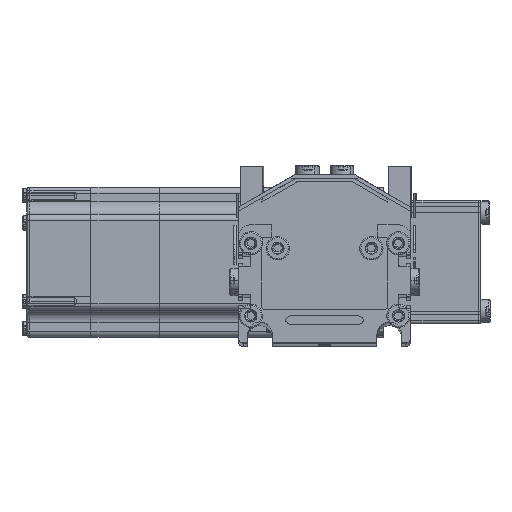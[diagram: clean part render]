
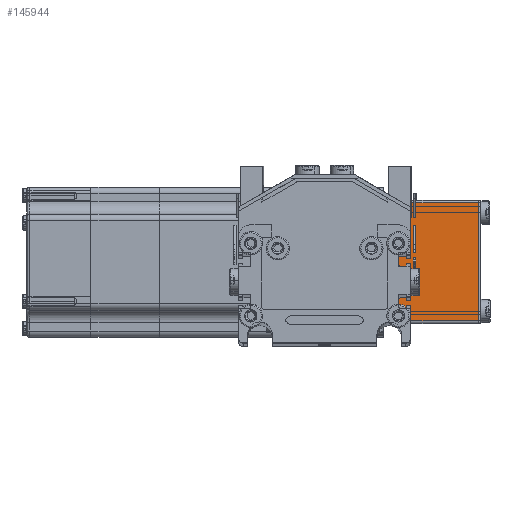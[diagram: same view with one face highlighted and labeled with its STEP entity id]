
A CAD part, top view. The second image highlights one B-rep face of the part: STEP entity #145944.
In plain terms, the highlighted planar face has unit normal (0, 0, 1) as drawn and (-1, 0, 0) by its records, which use the part's own axes.
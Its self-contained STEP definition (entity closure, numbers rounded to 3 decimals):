
#1891 = DIRECTION ( 'NONE',  ( 0., 0., 1. ) ) ;
#1892 = VECTOR ( 'NONE', #1891, 1000. ) ;
#1894 = CARTESIAN_POINT ( 'NONE',  ( -50., -24., 39.5 ) ) ;
#1896 = LINE ( 'NONE', #1894, #1892 ) ;
#2080 = DIRECTION ( 'NONE',  ( 0., 1., 0. ) ) ;
#2567 = DIRECTION ( 'NONE',  ( 0., -1., 0. ) ) ;
#2569 = VECTOR ( 'NONE', #2567, 1000. ) ;
#2572 = CARTESIAN_POINT ( 'NONE',  ( -50., 25., 0. ) ) ;
#2610 = CARTESIAN_POINT ( 'NONE',  ( -50., 24., 0. ) ) ;
#2686 = LINE ( 'NONE', #2572, #2569 ) ;
#4334 = DIRECTION ( 'NONE',  ( 0., 0., -1. ) ) ;
#4335 = VECTOR ( 'NONE', #4334, 1000. ) ;
#4344 = LINE ( 'NONE', #4380, #4335 ) ;
#4380 = CARTESIAN_POINT ( 'NONE',  ( -50., 24., 39.5 ) ) ;
#5703 = CARTESIAN_POINT ( 'NONE',  ( -50., -24., 0. ) ) ;
#5765 = CARTESIAN_POINT ( 'NONE',  ( -50., -24., 38.5 ) ) ;
#5913 = CARTESIAN_POINT ( 'NONE',  ( -50., 24., 38.5 ) ) ;
#14402 = PLANE ( 'NONE',  #14404 ) ;
#14404 = AXIS2_PLACEMENT_3D ( 'NONE', #14429, #14425, #2080 ) ;
#14409 = DIRECTION ( 'NONE',  ( 0., 1., 0. ) ) ;
#14411 = VECTOR ( 'NONE', #14409, 1000. ) ;
#14412 = CARTESIAN_POINT ( 'NONE',  ( -50., 25., 38.5 ) ) ;
#14413 = LINE ( 'NONE', #14412, #14411 ) ;
#14425 = DIRECTION ( 'NONE',  ( 1., 0., 0. ) ) ;
#14429 = CARTESIAN_POINT ( 'NONE',  ( -50., 25., 39.5 ) ) ;
#14580 = FACE_OUTER_BOUND ( 'NONE', #146119, .T. ) ;
#145936 = EDGE_CURVE ( 'NONE', #146378, #146464, #14413, .T. ) ;
#145944 = ADVANCED_FACE ( 'NONE', ( #14580 ), #14402, .F. ) ;
#145946 = EDGE_CURVE ( 'NONE', #146392, #146378, #1896, .T. ) ;
#146080 = VERTEX_POINT ( 'NONE', #2610 ) ;
#146092 = EDGE_CURVE ( 'NONE', #146080, #146392, #2686, .T. ) ;
#146119 = EDGE_LOOP ( 'NONE', ( #146126, #146467, #146296, #146310 ) ) ;
#146126 = ORIENTED_EDGE ( 'NONE', *, *, #146092, .T. ) ;
#146296 = ORIENTED_EDGE ( 'NONE', *, *, #145936, .T. ) ;
#146297 = EDGE_CURVE ( 'NONE', #146464, #146080, #4344, .T. ) ;
#146310 = ORIENTED_EDGE ( 'NONE', *, *, #146297, .T. ) ;
#146378 = VERTEX_POINT ( 'NONE', #5765 ) ;
#146392 = VERTEX_POINT ( 'NONE', #5703 ) ;
#146464 = VERTEX_POINT ( 'NONE', #5913 ) ;
#146467 = ORIENTED_EDGE ( 'NONE', *, *, #145946, .T. ) ;
